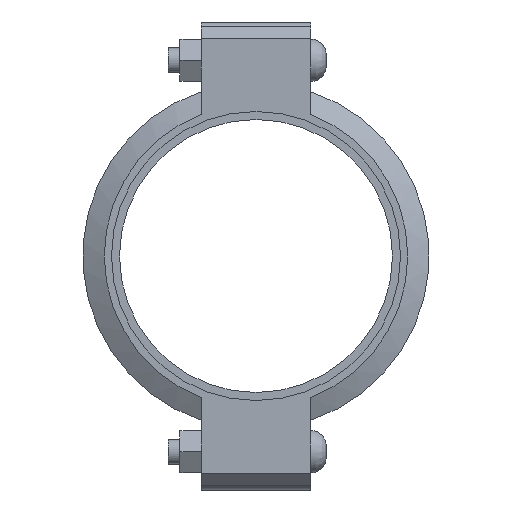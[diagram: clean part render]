
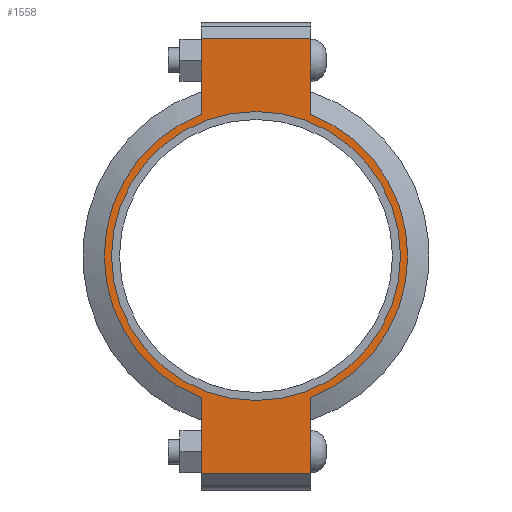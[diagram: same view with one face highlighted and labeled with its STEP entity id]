
A CAD part, left-side view. The second image highlights one B-rep face of the part: STEP entity #1558.
In plain terms, the highlighted planar face has unit normal (-1, 0, 0) as drawn and (0, 0, 1) by its records, which use the part's own axes.
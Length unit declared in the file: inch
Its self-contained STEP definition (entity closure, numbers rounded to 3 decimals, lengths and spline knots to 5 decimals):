
#182=LINE('',#2728,#275);
#190=LINE('',#2764,#283);
#197=LINE('',#2785,#290);
#206=LINE('',#2817,#299);
#207=LINE('',#2821,#300);
#208=LINE('',#2823,#301);
#275=VECTOR('',#2224,0.3937);
#283=VECTOR('',#2240,0.3937);
#290=VECTOR('',#2259,0.3937);
#299=VECTOR('',#2284,0.3937);
#300=VECTOR('',#2289,0.3937);
#301=VECTOR('',#2290,0.3937);
#357=FACE_BOUND('',#535,.T.);
#429=FACE_OUTER_BOUND('',#534,.T.);
#534=EDGE_LOOP('',(#1299,#1300,#1301,#1302,#1303,#1304,#1305,#1306));
#535=EDGE_LOOP('',(#1307));
#607=CIRCLE('',#1786,4.3125);
#633=CIRCLE('',#1845,4.53);
#634=CIRCLE('',#1846,4.53);
#699=VERTEX_POINT('',#2544);
#742=VERTEX_POINT('',#2725);
#743=VERTEX_POINT('',#2727);
#754=VERTEX_POINT('',#2759);
#755=VERTEX_POINT('',#2763);
#762=VERTEX_POINT('',#2782);
#763=VERTEX_POINT('',#2784);
#773=VERTEX_POINT('',#2820);
#774=VERTEX_POINT('',#2822);
#855=EDGE_CURVE('',#699,#699,#607,.T.);
#916=EDGE_CURVE('',#743,#742,#182,.T.);
#930=EDGE_CURVE('',#755,#754,#190,.T.);
#940=EDGE_CURVE('',#763,#762,#197,.T.);
#955=EDGE_CURVE('',#755,#742,#206,.T.);
#956=EDGE_CURVE('',#754,#763,#633,.T.);
#957=EDGE_CURVE('',#773,#762,#207,.T.);
#958=EDGE_CURVE('',#773,#774,#208,.T.);
#959=EDGE_CURVE('',#774,#743,#634,.T.);
#1299=ORIENTED_EDGE('',*,*,#955,.F.);
#1300=ORIENTED_EDGE('',*,*,#930,.T.);
#1301=ORIENTED_EDGE('',*,*,#956,.T.);
#1302=ORIENTED_EDGE('',*,*,#940,.T.);
#1303=ORIENTED_EDGE('',*,*,#957,.F.);
#1304=ORIENTED_EDGE('',*,*,#958,.T.);
#1305=ORIENTED_EDGE('',*,*,#959,.T.);
#1306=ORIENTED_EDGE('',*,*,#916,.T.);
#1307=ORIENTED_EDGE('',*,*,#855,.T.);
#1400=PLANE('',#1844);
#1558=ADVANCED_FACE('',(#429,#357),#1400,.T.);
#1786=AXIS2_PLACEMENT_3D('',#2546,#2100,#2101);
#1844=AXIS2_PLACEMENT_3D('',#2818,#2285,#2286);
#1845=AXIS2_PLACEMENT_3D('',#2819,#2287,#2288);
#1846=AXIS2_PLACEMENT_3D('',#2824,#2291,#2292);
#2100=DIRECTION('center_axis',(0.,0.,-1.));
#2101=DIRECTION('ref_axis',(1.,0.,0.));
#2224=DIRECTION('',(1.,0.,0.));
#2240=DIRECTION('',(-1.,0.,0.));
#2259=DIRECTION('',(-1.,0.,0.));
#2284=DIRECTION('',(0.,-1.,0.));
#2285=DIRECTION('center_axis',(0.,0.,1.));
#2286=DIRECTION('ref_axis',(-1.,0.,0.));
#2287=DIRECTION('center_axis',(0.,0.,1.));
#2288=DIRECTION('ref_axis',(1.,0.,0.));
#2289=DIRECTION('',(0.,1.,0.));
#2290=DIRECTION('',(1.,0.,0.));
#2291=DIRECTION('center_axis',(0.,0.,1.));
#2292=DIRECTION('ref_axis',(1.,0.,0.));
#2544=CARTESIAN_POINT('',(-4.3125,0.,1.16));
#2546=CARTESIAN_POINT('Origin',(0.,0.,1.16));
#2725=CARTESIAN_POINT('',(6.485,-1.63,1.16));
#2727=CARTESIAN_POINT('',(4.22658,-1.63,1.16));
#2728=CARTESIAN_POINT('',(6.985,-1.63,1.16));
#2759=CARTESIAN_POINT('',(4.22658,1.63,1.16));
#2763=CARTESIAN_POINT('',(6.485,1.63,1.16));
#2764=CARTESIAN_POINT('',(-6.985,1.63,1.16));
#2782=CARTESIAN_POINT('',(-6.485,1.63,1.16));
#2784=CARTESIAN_POINT('',(-4.22658,1.63,1.16));
#2785=CARTESIAN_POINT('',(-6.985,1.63,1.16));
#2817=CARTESIAN_POINT('',(6.485,-0.815,1.16));
#2818=CARTESIAN_POINT('Origin',(0.,0.,
1.16));
#2819=CARTESIAN_POINT('Origin',(0.,0.,1.16));
#2820=CARTESIAN_POINT('',(-6.485,-1.63,1.16));
#2821=CARTESIAN_POINT('',(-6.485,0.815,1.16));
#2822=CARTESIAN_POINT('',(-4.22658,-1.63,1.16));
#2823=CARTESIAN_POINT('',(6.985,-1.63,1.16));
#2824=CARTESIAN_POINT('Origin',(0.,0.,1.16));
